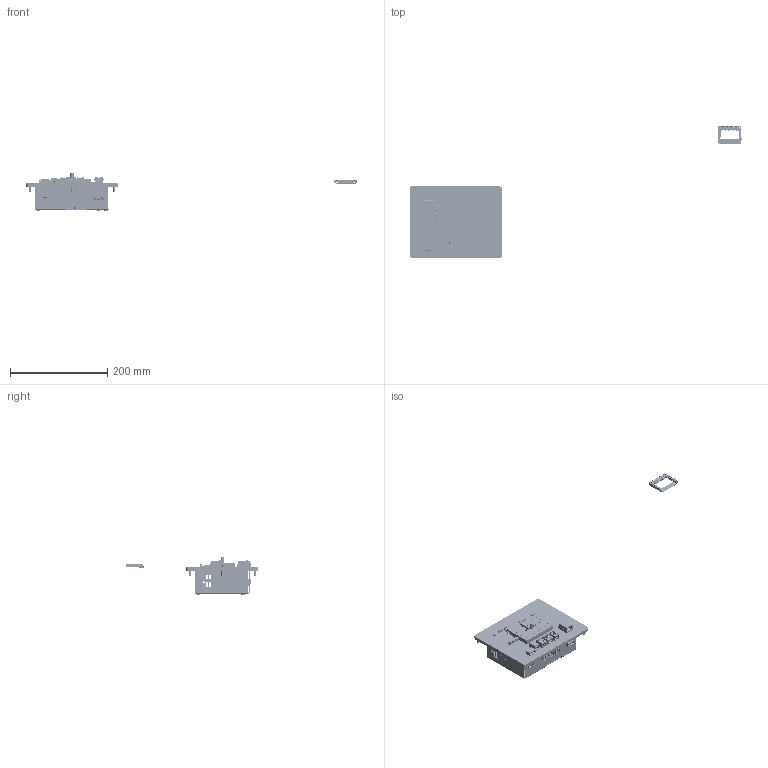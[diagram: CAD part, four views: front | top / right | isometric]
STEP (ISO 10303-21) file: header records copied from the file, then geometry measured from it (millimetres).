
FILE_DESCRIPTION( ( 'Unknown' ), '1' );
FILE_NAME( 'W:/Teams/Mech/SE data/Product_Lines/G3/G303/G303.stp', 'Unknown', ( 'Unknown' ), ( 'Unknown' ), 'PSStep 13.0', 'Unknown', ' ' );
FILE_SCHEMA( ( 'AUTOMOTIVE_DESIGN { 1 0 10303 214 1 1 1 1 }' ) );
Length unit declared in the file: inch
Products named in the file (41): SCOCMG02; Assem1; CV222984; PB02927x; PN112981; CNTP03X0; CNMJ6601; CNHFR040; CNZT0060; CNZB0100; CNEP0500; CNBMS310; CNMJ8801; CNMJ8803; SCOCMG02 lcd; fh-832-10; fh-256-8; bso-8632-28; pn112981; CV112983; S-632-1; SO-8169-18; BSO-8632-18; GK002950; HD20A0AJ; HWCMT202; GK003174; HWNHA080; LB02982C; HWCMT360; HWSMEP08; HWSMEP24; HWWLE000; HWCPN060
Bounding box: 683.86 x 273.44 x 79.73 mm (x, y, z)
Volume: 802678.7 mm3; surface area: 788669.5 mm2
Topology: 139 solids, 139 shells, 15113 faces, 41724 edges, 27320 vertices
Faces by surface type: plane 11891, cylinder 2801, bspline 150, cone 94, extrusion 72, sphere 68, torus 37
Full cylindrical faces by diameter (mm): 0.4 x150, 0.559 x18, 0.889 x78, 0.92 x12, 1 x60, 1.016 x21, 1.194 x6, 1.2 x12, 1.295 x6, 1.575 x6, 1.6 x6, 1.702 x6, 2.184 x14, 2.2 x6, 2.21 x6, 2.3 x6, 2.5 x12, 2.647 x30, 3.251 x24, 3.505 x13, 3.658 x11, 3.696 x7, 3.81 x3, 3.962 x18, 4.166 x57, 4.216 x3, 4.762 x3, 4.826 x3, 5.563 x3, 6.02 x41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
Entity records: 186834 total; most frequent: CARTESIAN_POINT 28558, ORIENTED_EDGE 25808, DIRECTION 24188, EDGE_CURVE 12904, VECTOR 11036, LINE 11012, VERTEX_POINT 8610, AXIS2_PLACEMENT_3D 6576
